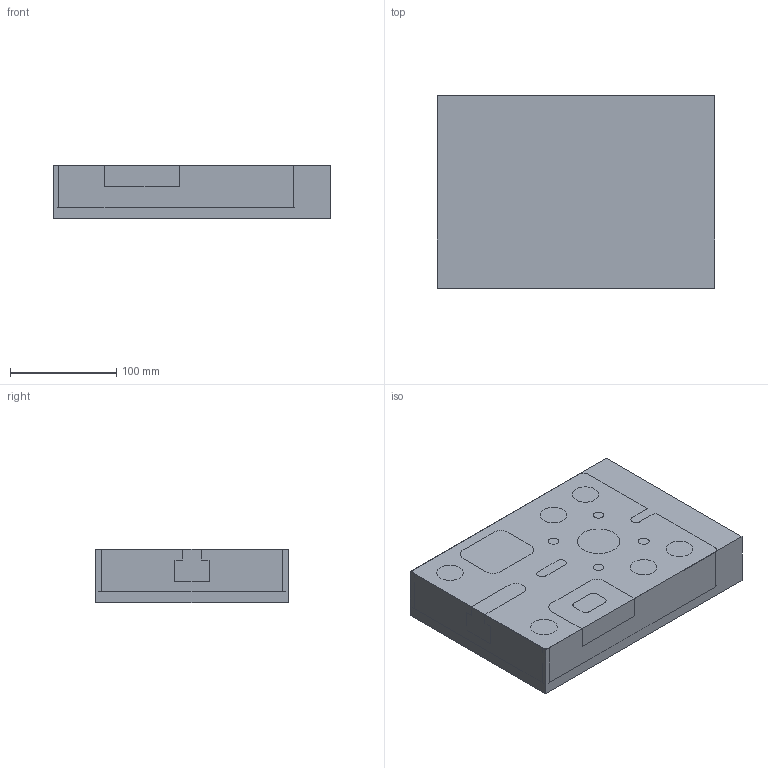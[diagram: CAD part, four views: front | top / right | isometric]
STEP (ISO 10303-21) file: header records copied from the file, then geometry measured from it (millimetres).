
FILE_DESCRIPTION(/* description */ ('ACIS model converted to STEP'),/* implementation_level */ '2;1');
FILE_NAME(/* name */ 'iso14649-demoap203_ap238',/* time_stamp */ '2002-09-23T16:23:41-04:00',/* author */ ('Me'),/* organization */ ('Company'),/* preprocessor_version */ 'ST-DEVELOPER v9',/* originating_system */ 'ACIS 7.0',/* authorisation */ 'Someone else');
FILE_SCHEMA (('INTEGRATED_CNC_SCHEMA'));
Length unit declared in the file: millimetre
Bounding box: 260.6 x 180.6 x 50.6 mm (x, y, z)
Surface area: 303171.8 mm2
Topology: 2 solids, 2 shells, 149 faces, 367 edges, 238 vertices
Faces by surface type: plane 76, cylinder 67, sphere 4, torus 2
Full cylindrical faces by diameter (mm): 10 x6, 15 x2, 18 x4, 25 x6, 40 x2, 44 x1
Entity records: 10514 total; most frequent: DIRECTION 1448, CARTESIAN_POINT 1185, VECTOR 795, ORIENTED_EDGE 766, AXIS2_PLACEMENT_3D 623, PRODUCT_DEFINITION_SHAPE 435, EDGE_CURVE 428, PROPERTY_DEFINITION_REPRESENTATION 382
